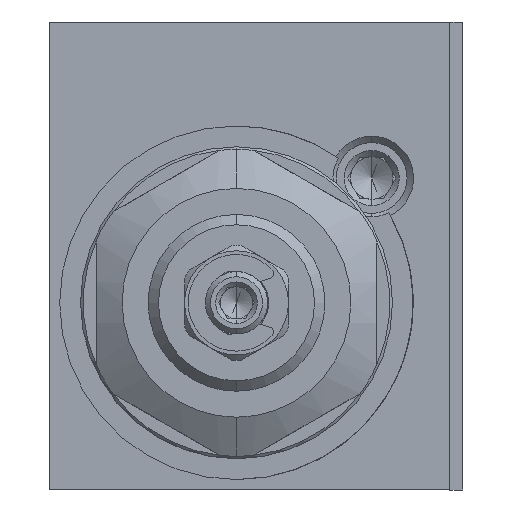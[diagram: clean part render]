
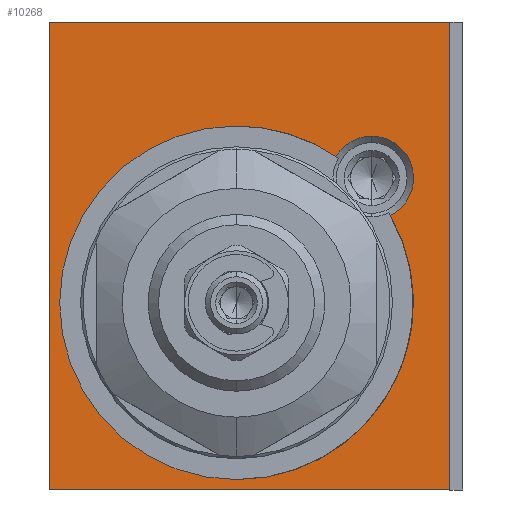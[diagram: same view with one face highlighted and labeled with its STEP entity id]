
A CAD part, left-side view. The second image highlights one B-rep face of the part: STEP entity #10268.
In plain terms, the highlighted planar face has unit normal (-1, 0, 0).
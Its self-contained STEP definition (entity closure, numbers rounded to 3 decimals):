
#42 = DIRECTION ( 'NONE',  ( 0., 0., -1. ) ) ;
#98 = DIRECTION ( 'NONE',  ( -1., 0., 0. ) ) ;
#296 = DIRECTION ( 'NONE',  ( 0., 0., -1. ) ) ;
#1418 = CARTESIAN_POINT ( 'NONE',  ( 0., -11.75, 11.525 ) ) ;
#1431 = DIRECTION ( 'NONE',  ( -1., 0., 0. ) ) ;
#1764 = CARTESIAN_POINT ( 'NONE',  ( 0., 1.25, -4.5 ) ) ;
#1828 = LINE ( 'NONE', #15351, #8872 ) ;
#2094 = VECTOR ( 'NONE', #3703, 1000. ) ;
#2253 = LINE ( 'NONE', #3657, #2094 ) ;
#2256 = EDGE_LOOP ( 'NONE', ( #20650, #20588, #20583, #20516 ) ) ;
#2443 = LINE ( 'NONE', #16871, #9072 ) ;
#2975 = DIRECTION ( 'NONE',  ( 0., 0., -1. ) ) ;
#3005 = CARTESIAN_POINT ( 'NONE',  ( 0., 1.25, -4.5 ) ) ;
#3065 = EDGE_CURVE ( 'NONE', #11243, #23901, #16612, .T. ) ;
#3652 = CARTESIAN_POINT ( 'NONE',  ( 0., 1.25, -21.5 ) ) ;
#3657 = CARTESIAN_POINT ( 'NONE',  ( 0., 19.25, 22.5 ) ) ;
#3677 = VERTEX_POINT ( 'NONE', #3652 ) ;
#3703 = DIRECTION ( 'NONE',  ( 0., -1., 0. ) ) ;
#4799 = DIRECTION ( 'NONE',  ( 0., 0., 1. ) ) ;
#4889 = CARTESIAN_POINT ( 'NONE',  ( 0., 1.25, 12.5 ) ) ;
#5232 = CARTESIAN_POINT ( 'NONE',  ( 0., 19.25, -22.5 ) ) ;
#7530 = FACE_BOUND ( 'NONE', #21399, .T. ) ;
#7703 = CARTESIAN_POINT ( 'NONE',  ( 0., -19.25, 22.5 ) ) ;
#8069 = VERTEX_POINT ( 'NONE', #14004 ) ;
#8872 = VECTOR ( 'NONE', #15526, 1000. ) ;
#9072 = VECTOR ( 'NONE', #16642, 1000. ) ;
#9802 = EDGE_CURVE ( 'NONE', #12591, #8069, #2443, .T. ) ;
#10268 = ADVANCED_FACE ( 'NONE', ( #7530, #20123 ), #22650, .T. ) ;
#11243 = VERTEX_POINT ( 'NONE', #16975 ) ;
#11274 = CARTESIAN_POINT ( 'NONE',  ( 0., -11.75, 7.5 ) ) ;
#11276 = CARTESIAN_POINT ( 'NONE',  ( 0., 19.25, 22.5 ) ) ;
#11353 = DIRECTION ( 'NONE',  ( 0., 0., -1. ) ) ;
#11556 = EDGE_CURVE ( 'NONE', #8069, #21594, #24120, .T. ) ;
#12591 = VERTEX_POINT ( 'NONE', #13309 ) ;
#12600 = CIRCLE ( 'NONE', #16563, 17. ) ;
#13026 = DIRECTION ( 'NONE',  ( -1., 0., 0. ) ) ;
#13309 = CARTESIAN_POINT ( 'NONE',  ( 0., -19.25, -22.5 ) ) ;
#13401 = CARTESIAN_POINT ( 'NONE',  ( 0., -8.296, 9.567 ) ) ;
#14004 = CARTESIAN_POINT ( 'NONE',  ( 0., 19.25, -22.5 ) ) ;
#14246 = AXIS2_PLACEMENT_3D ( 'NONE', #23430, #98, #42 ) ;
#14283 = AXIS2_PLACEMENT_3D ( 'NONE', #3005, #24092, #2975 ) ;
#14366 = AXIS2_PLACEMENT_3D ( 'NONE', #11274, #22809, #11353 ) ;
#14376 = DIRECTION ( 'NONE',  ( 0., 0., -1. ) ) ;
#14437 = CARTESIAN_POINT ( 'NONE',  ( 0., -11.75, 7.5 ) ) ;
#14956 = CIRCLE ( 'NONE', #14283, 17. ) ;
#15033 = EDGE_CURVE ( 'NONE', #20934, #19714, #12600, .T. ) ;
#15351 = CARTESIAN_POINT ( 'NONE',  ( 0., -19.25, -22.5 ) ) ;
#15526 = DIRECTION ( 'NONE',  ( 0., 0., -1. ) ) ;
#16563 = AXIS2_PLACEMENT_3D ( 'NONE', #1764, #1431, #296 ) ;
#16612 = CIRCLE ( 'NONE', #22863, 4.025 ) ;
#16642 = DIRECTION ( 'NONE',  ( 0., 1., 0. ) ) ;
#16767 = VERTEX_POINT ( 'NONE', #7703 ) ;
#16871 = CARTESIAN_POINT ( 'NONE',  ( 0., 19.25, -22.5 ) ) ;
#16975 = CARTESIAN_POINT ( 'NONE',  ( 0., -13.534, 3.892 ) ) ;
#19714 = VERTEX_POINT ( 'NONE', #4889 ) ;
#20123 = FACE_OUTER_BOUND ( 'NONE', #2256, .T. ) ;
#20162 = EDGE_CURVE ( 'NONE', #21594, #16767, #2253, .T. ) ;
#20489 = EDGE_CURVE ( 'NONE', #16767, #12591, #1828, .T. ) ;
#20516 = ORIENTED_EDGE ( 'NONE', *, *, #20489, .F. ) ;
#20583 = ORIENTED_EDGE ( 'NONE', *, *, #9802, .F. ) ;
#20588 = ORIENTED_EDGE ( 'NONE', *, *, #11556, .F. ) ;
#20650 = ORIENTED_EDGE ( 'NONE', *, *, #20162, .F. ) ;
#20871 = ORIENTED_EDGE ( 'NONE', *, *, #22470, .F. ) ;
#20893 = ORIENTED_EDGE ( 'NONE', *, *, #15033, .F. ) ;
#20934 = VERTEX_POINT ( 'NONE', #13401 ) ;
#21197 = ORIENTED_EDGE ( 'NONE', *, *, #22682, .F. ) ;
#21202 = ORIENTED_EDGE ( 'NONE', *, *, #22835, .F. ) ;
#21272 = CIRCLE ( 'NONE', #14246, 17. ) ;
#21399 = EDGE_LOOP ( 'NONE', ( #21514, #21202, #21197, #20893, #20871 ) ) ;
#21514 = ORIENTED_EDGE ( 'NONE', *, *, #3065, .F. ) ;
#21594 = VERTEX_POINT ( 'NONE', #11276 ) ;
#22085 = DIRECTION ( 'NONE',  ( 0., 0., -1. ) ) ;
#22107 = DIRECTION ( 'NONE',  ( -1., 0., 0. ) ) ;
#22141 = CARTESIAN_POINT ( 'NONE',  ( 0., -19.25, 22.5 ) ) ;
#22470 = EDGE_CURVE ( 'NONE', #23901, #20934, #22512, .T. ) ;
#22512 = CIRCLE ( 'NONE', #14366, 4.025 ) ;
#22650 = PLANE ( 'NONE',  #22843 ) ;
#22682 = EDGE_CURVE ( 'NONE', #19714, #3677, #14956, .T. ) ;
#22809 = DIRECTION ( 'NONE',  ( -1., 0., 0. ) ) ;
#22835 = EDGE_CURVE ( 'NONE', #3677, #11243, #21272, .T. ) ;
#22843 = AXIS2_PLACEMENT_3D ( 'NONE', #22141, #22107, #22085 ) ;
#22863 = AXIS2_PLACEMENT_3D ( 'NONE', #14437, #13026, #14376 ) ;
#23430 = CARTESIAN_POINT ( 'NONE',  ( 0., 1.25, -4.5 ) ) ;
#23754 = VECTOR ( 'NONE', #4799, 1000. ) ;
#23901 = VERTEX_POINT ( 'NONE', #1418 ) ;
#24092 = DIRECTION ( 'NONE',  ( -1., 0., 0. ) ) ;
#24120 = LINE ( 'NONE', #5232, #23754 ) ;
